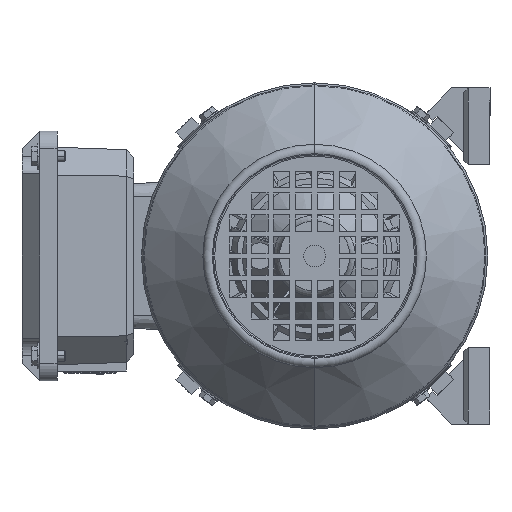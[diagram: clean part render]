
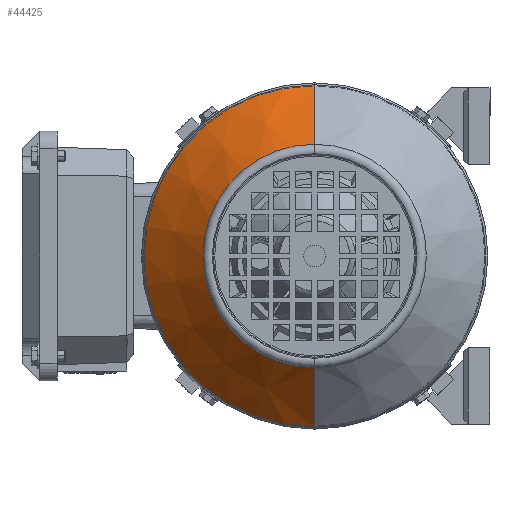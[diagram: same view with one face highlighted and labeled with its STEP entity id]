
A CAD part, left-side view. The second image highlights one B-rep face of the part: STEP entity #44425.
In plain terms, the highlighted conical face has half-angle 45 degrees and reference radius 51 mm.
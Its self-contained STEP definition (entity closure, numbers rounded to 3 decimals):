
#43731 = VERTEX_POINT ( 'NONE', #50893 ) ;
#43743 = VERTEX_POINT ( 'NONE', #50870 ) ;
#43764 = EDGE_CURVE ( 'NONE', #43731, #43815, #50960, .T. ) ;
#43815 = VERTEX_POINT ( 'NONE', #51077 ) ;
#43826 = VERTEX_POINT ( 'NONE', #51151 ) ;
#43835 = EDGE_CURVE ( 'NONE', #43743, #43826, #51136, .T. ) ;
#44282 = EDGE_LOOP ( 'NONE', ( #44284, #44291, #44300, #44358 ) ) ;
#44284 = ORIENTED_EDGE ( 'NONE', *, *, #43764, .F. ) ;
#44291 = ORIENTED_EDGE ( 'NONE', *, *, #44293, .T. ) ;
#44293 = EDGE_CURVE ( 'NONE', #43731, #43743, #52532, .T. ) ;
#44300 = ORIENTED_EDGE ( 'NONE', *, *, #43835, .T. ) ;
#44358 = ORIENTED_EDGE ( 'NONE', *, *, #44414, .F. ) ;
#44414 = EDGE_CURVE ( 'NONE', #43815, #43826, #52789, .T. ) ;
#44425 = ADVANCED_FACE ( 'NONE', ( #52899 ), #52893, .T. ) ;
#50870 = CARTESIAN_POINT ( 'NONE',  ( 86.331, 0., 51. ) ) ;
#50893 = CARTESIAN_POINT ( 'NONE',  ( 86.331, 0., -51. ) ) ;
#50957 = DIRECTION ( 'NONE',  ( -0.707, 0., -0.707 ) ) ;
#50958 = VECTOR ( 'NONE', #50957, 1000. ) ;
#50959 = CARTESIAN_POINT ( 'NONE',  ( 86.331, 0., -51. ) ) ;
#50960 = LINE ( 'NONE', #50959, #50958 ) ;
#51077 = CARTESIAN_POINT ( 'NONE',  ( 59.21, 0., -78.121 ) ) ;
#51132 = DIRECTION ( 'NONE',  ( -0.707, 0., 0.707 ) ) ;
#51133 = VECTOR ( 'NONE', #51132, 1000. ) ;
#51134 = CARTESIAN_POINT ( 'NONE',  ( 86.331, 0., 51. ) ) ;
#51136 = LINE ( 'NONE', #51134, #51133 ) ;
#51151 = CARTESIAN_POINT ( 'NONE',  ( 59.21, 0., 78.121 ) ) ;
#52518 = DIRECTION ( 'NONE',  ( -1., 0., 0. ) ) ;
#52519 = CARTESIAN_POINT ( 'NONE',  ( 86.331, 0., 0. ) ) ;
#52520 = AXIS2_PLACEMENT_3D ( 'NONE', #52519, #52518, #52648 ) ;
#52532 = CIRCLE ( 'NONE', #52520, 51. ) ;
#52648 = DIRECTION ( 'NONE',  ( 0., 0., 1. ) ) ;
#52783 = DIRECTION ( 'NONE',  ( 0., 0., 1. ) ) ;
#52784 = DIRECTION ( 'NONE',  ( -1., 0., 0. ) ) ;
#52785 = CARTESIAN_POINT ( 'NONE',  ( 59.21, 0., 0. ) ) ;
#52787 = AXIS2_PLACEMENT_3D ( 'NONE', #52785, #52784, #52783 ) ;
#52789 = CIRCLE ( 'NONE', #52787, 78.121 ) ;
#52888 = DIRECTION ( 'NONE',  ( 0., 0., 1. ) ) ;
#52889 = DIRECTION ( 'NONE',  ( -1., 0., 0. ) ) ;
#52890 = CARTESIAN_POINT ( 'NONE',  ( 86.331, 0., 0. ) ) ;
#52892 = AXIS2_PLACEMENT_3D ( 'NONE', #52890, #52889, #52888 ) ;
#52893 = CONICAL_SURFACE ( 'NONE', #52892, 51., 0.785 ) ;
#52899 = FACE_OUTER_BOUND ( 'NONE', #44282, .T. ) ;
